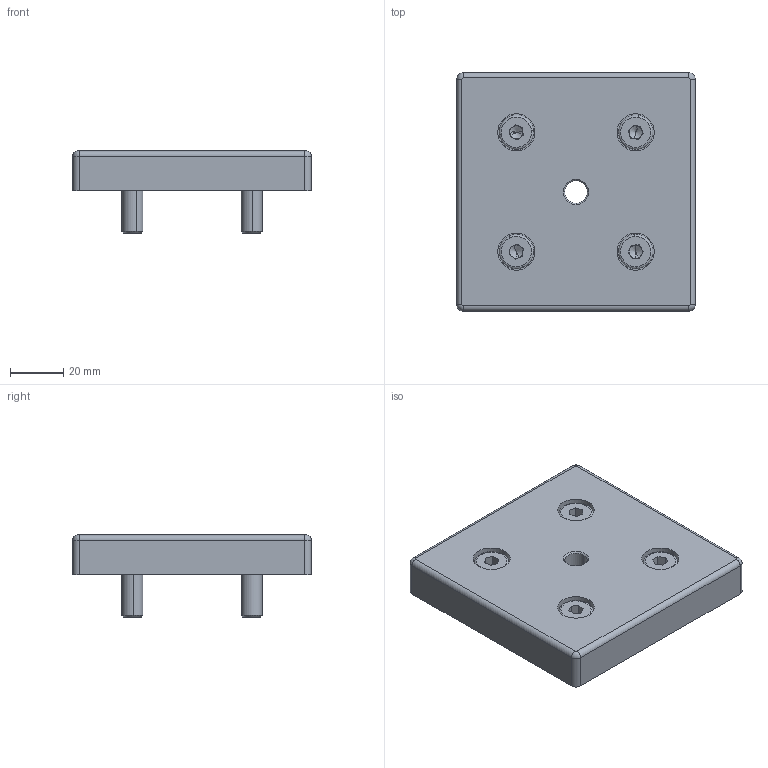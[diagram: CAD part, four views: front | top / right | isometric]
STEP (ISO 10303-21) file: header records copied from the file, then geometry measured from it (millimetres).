
FILE_DESCRIPTION (( 'STEP AP214' ), '1' );
FILE_NAME ('1.5012 Kierrelevy 90x90 M10.STEP', '2025-09-16T07:22:13', ( '' ), ( '' ), 'SwSTEP 2.0', 'SolidWorks 2025', '' );
FILE_SCHEMA (( 'AUTOMOTIVE_DESIGN' ));
Length unit declared in the file: millimetre
Products named in the file (1): 1.5012 Kierrelevy 90x90 M10
Bounding box: 90 x 90 x 31 mm (x, y, z)
Volume: 121939.7 mm3; surface area: 27607.8 mm2
Topology: 5 solids, 5 shells, 150 faces, 330 edges, 194 vertices
Faces by surface type: plane 70, cylinder 42, torus 20, cone 18
Entity records: 5773 total; most frequent: DIRECTION 778, CARTESIAN_POINT 667, ORIENTED_EDGE 644, EDGE_CURVE 322, AXIS2_PLACEMENT_3D 305, VERTEX_POINT 194, EDGE_LOOP 172, VECTOR 168
